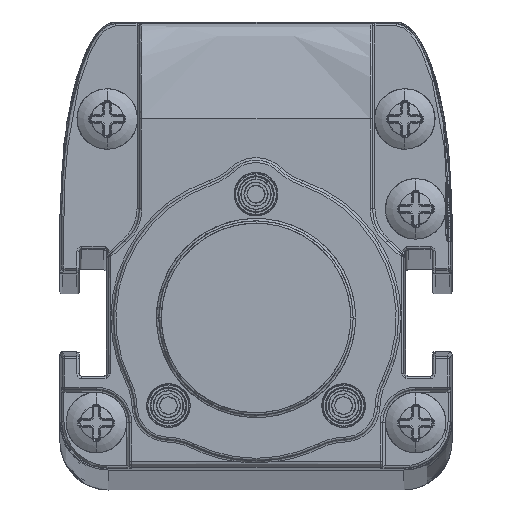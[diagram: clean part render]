
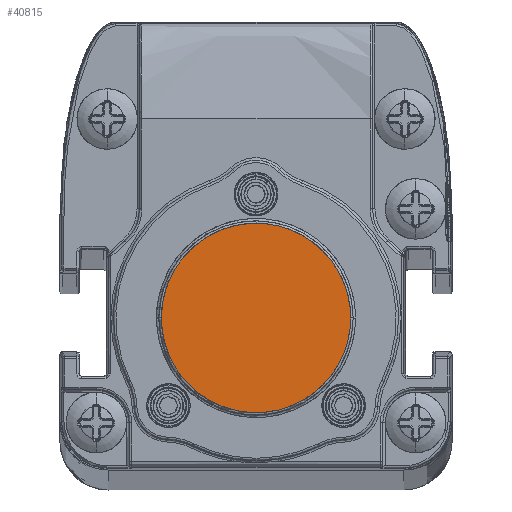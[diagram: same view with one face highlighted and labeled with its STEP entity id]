
A CAD part, top view. The second image highlights one B-rep face of the part: STEP entity #40815.
In plain terms, the highlighted planar face has unit normal (0, 0, 1).
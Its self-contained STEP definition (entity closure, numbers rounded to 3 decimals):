
#40732=CARTESIAN_POINT('',(-7.797,0.22,983.24));
#40733=CARTESIAN_POINT('',(-7.789,0.509,983.24));
#40734=CARTESIAN_POINT('',(-7.74,1.084,983.24));
#40735=CARTESIAN_POINT('',(-7.569,1.951,983.24));
#40736=CARTESIAN_POINT('',(-7.31,2.766,983.24));
#40737=CARTESIAN_POINT('',(-6.963,3.55,983.24));
#40738=CARTESIAN_POINT('',(-6.532,4.292,983.24));
#40739=CARTESIAN_POINT('',(-6.027,4.975,983.24));
#40740=CARTESIAN_POINT('',(-5.448,5.603,983.24));
#40741=CARTESIAN_POINT('',(-4.806,6.163,983.24));
#40742=CARTESIAN_POINT('',(-4.105,6.651,983.24));
#40743=CARTESIAN_POINT('',(-3.328,7.073,983.24));
#40744=CARTESIAN_POINT('',(-2.499,7.407,983.24));
#40745=CARTESIAN_POINT('',(-1.633,7.645,983.24));
#40746=CARTESIAN_POINT('',(-0.741,7.782,983.24));
#40747=CARTESIAN_POINT('',(0.141,7.816,983.24));
#40748=CARTESIAN_POINT('',(1.051,7.746,983.24));
#40749=CARTESIAN_POINT('',(1.914,7.579,983.24));
#40750=CARTESIAN_POINT('',(2.779,7.306,983.24));
#40751=CARTESIAN_POINT('',(3.583,6.947,983.24));
#40752=CARTESIAN_POINT('',(4.338,6.501,983.24));
#40753=CARTESIAN_POINT('',(5.032,5.98,983.24));
#40754=CARTESIAN_POINT('',(5.669,5.38,983.24));
#40755=CARTESIAN_POINT('',(6.211,4.744,983.24));
#40756=CARTESIAN_POINT('',(6.699,4.027,983.24));
#40757=CARTESIAN_POINT('',(7.093,3.278,983.24));
#40758=CARTESIAN_POINT('',(7.396,2.521,983.24));
#40759=CARTESIAN_POINT('',(7.633,1.678,983.24));
#40760=CARTESIAN_POINT('',(7.765,0.898,983.24));
#40761=CARTESIAN_POINT('',(7.798,0.305,983.24));
#40762=CARTESIAN_POINT('',(7.8,0.,983.24));
#40767=CARTESIAN_POINT('',(7.8,0.,983.24));
#40768=CARTESIAN_POINT('',(7.8,-0.309,983.24));
#40769=CARTESIAN_POINT('',(7.763,-0.92,983.24));
#40770=CARTESIAN_POINT('',(7.617,-1.761,983.24));
#40771=CARTESIAN_POINT('',(7.336,-2.7,983.24));
#40772=CARTESIAN_POINT('',(6.993,-3.494,983.24));
#40773=CARTESIAN_POINT('',(6.523,-4.31,983.24));
#40774=CARTESIAN_POINT('',(5.988,-5.024,983.24));
#40775=CARTESIAN_POINT('',(5.38,-5.671,983.24));
#40776=CARTESIAN_POINT('',(4.693,-6.25,983.24));
#40777=CARTESIAN_POINT('',(3.965,-6.736,983.24));
#40778=CARTESIAN_POINT('',(3.188,-7.136,983.24));
#40779=CARTESIAN_POINT('',(2.369,-7.448,983.24));
#40780=CARTESIAN_POINT('',(1.527,-7.665,983.24));
#40781=CARTESIAN_POINT('',(0.697,-7.784,983.24));
#40782=CARTESIAN_POINT('',(-0.181,-7.814,983.24));
#40783=CARTESIAN_POINT('',(-1.017,-7.749,983.24));
#40784=CARTESIAN_POINT('',(-1.856,-7.592,983.24));
#40785=CARTESIAN_POINT('',(-2.672,-7.345,983.24));
#40786=CARTESIAN_POINT('',(-3.464,-7.006,983.24));
#40787=CARTESIAN_POINT('',(-4.215,-6.583,983.24));
#40788=CARTESIAN_POINT('',(-4.947,-6.053,983.24));
#40789=CARTESIAN_POINT('',(-5.605,-5.449,983.24));
#40790=CARTESIAN_POINT('',(-6.194,-4.769,983.24));
#40791=CARTESIAN_POINT('',(-6.692,-4.042,983.24));
#40792=CARTESIAN_POINT('',(-7.122,-3.222,983.24));
#40793=CARTESIAN_POINT('',(-7.436,-2.41,983.24));
#40794=CARTESIAN_POINT('',(-7.665,-1.536,983.24));
#40795=CARTESIAN_POINT('',(-7.789,-0.655,983.24));
#40796=CARTESIAN_POINT('',(-7.805,-0.072,983.24));
#40797=CARTESIAN_POINT('',(-7.797,0.22,983.24));
#40802=VERTEX_POINT('',#40762);
#40803=VERTEX_POINT('',#40732);
#40804=CARTESIAN_POINT('',(0.,0.,983.24));
#40805=DIRECTION('',(0.,0.,1.));
#40806=DIRECTION('',(1.,0.,0.));
#40807=AXIS2_PLACEMENT_3D('',#40804,#40805,#40806);
#40808=PLANE('',#40807);
#40810=ORIENTED_EDGE('',*,*,#40809,.T.);
#40812=ORIENTED_EDGE('',*,*,#40811,.T.);
#40813=EDGE_LOOP('',(#40810,#40812));
#40814=FACE_OUTER_BOUND('',#40813,.F.);
#40815=ADVANCED_FACE('',(#40814),#40808,.T.);
#40763=B_SPLINE_CURVE_WITH_KNOTS('',3,(#40732,#40733,#40734,#40735,#40736,
#40737,#40738,#40739,#40740,#40741,#40742,#40743,#40744,#40745,#40746,#40747,
#40748,#40749,#40750,#40751,#40752,#40753,#40754,#40755,#40756,#40757,#40758,
#40759,#40760,#40761,#40762),.UNSPECIFIED.,.F.,.F.,(4,1,1,1,1,1,1,1,1,1,1,1,1,1,
1,1,1,1,1,1,1,1,1,1,1,1,1,1,4),(0.,0.036,0.071,
0.107,0.143,0.179,0.214,0.25,
0.286,0.321,0.357,0.393,
0.429,0.464,0.5,0.536,0.571,
0.607,0.643,0.679,0.714,0.75,
0.786,0.821,0.857,0.893,
0.929,0.964,1.),.UNSPECIFIED.);
#40798=B_SPLINE_CURVE_WITH_KNOTS('',3,(#40767,#40768,#40769,#40770,#40771,
#40772,#40773,#40774,#40775,#40776,#40777,#40778,#40779,#40780,#40781,#40782,
#40783,#40784,#40785,#40786,#40787,#40788,#40789,#40790,#40791,#40792,#40793,
#40794,#40795,#40796,#40797),.UNSPECIFIED.,.F.,.F.,(4,1,1,1,1,1,1,1,1,1,1,1,1,1,
1,1,1,1,1,1,1,1,1,1,1,1,1,1,4),(0.,0.036,0.071,
0.107,0.143,0.179,0.214,0.25,
0.286,0.321,0.357,0.393,
0.429,0.464,0.5,0.536,0.571,
0.607,0.643,0.679,0.714,0.75,
0.786,0.821,0.857,0.893,
0.929,0.964,1.),.UNSPECIFIED.);
#40809=EDGE_CURVE('',#40803,#40802,#40763,.T.);
#40811=EDGE_CURVE('',#40802,#40803,#40798,.T.);
